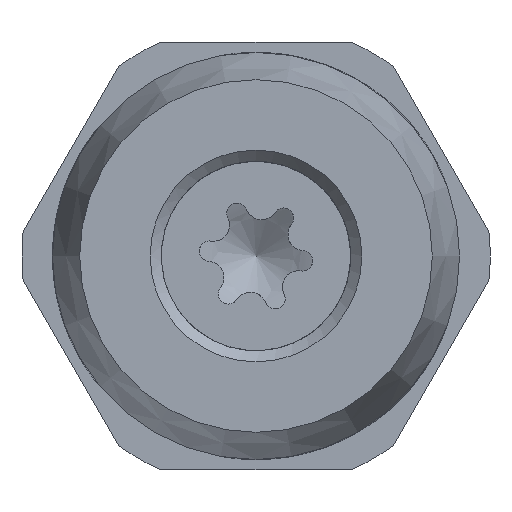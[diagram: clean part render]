
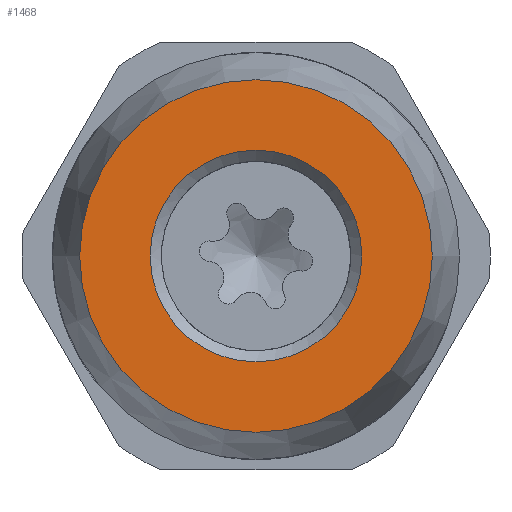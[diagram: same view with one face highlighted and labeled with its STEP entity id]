
A CAD part, front view. The second image highlights one B-rep face of the part: STEP entity #1468.
In plain terms, the highlighted planar face has unit normal (0, -1, 0).
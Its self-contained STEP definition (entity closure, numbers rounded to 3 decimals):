
#59=FACE_BOUND('',#256,.T.);
#79=PLANE('',#1604);
#174=FACE_OUTER_BOUND('',#255,.T.);
#255=EDGE_LOOP('',(#1124,#1125));
#256=EDGE_LOOP('',(#1126,#1127));
#507=CIRCLE('',#1578,5.2);
#508=CIRCLE('',#1579,5.2);
#514=CIRCLE('',#1605,8.66);
#515=CIRCLE('',#1606,8.66);
#608=VERTEX_POINT('',#2442);
#609=VERTEX_POINT('',#2443);
#641=VERTEX_POINT('',#2766);
#642=VERTEX_POINT('',#2767);
#774=EDGE_CURVE('',#608,#609,#507,.T.);
#775=EDGE_CURVE('',#609,#608,#508,.T.);
#823=EDGE_CURVE('',#641,#642,#514,.T.);
#824=EDGE_CURVE('',#642,#641,#515,.T.);
#1124=ORIENTED_EDGE('',*,*,#823,.F.);
#1125=ORIENTED_EDGE('',*,*,#824,.F.);
#1126=ORIENTED_EDGE('',*,*,#774,.T.);
#1127=ORIENTED_EDGE('',*,*,#775,.T.);
#1468=ADVANCED_FACE('',(#174,#59),#79,.T.);
#1578=AXIS2_PLACEMENT_3D('',#2444,#1811,#1812);
#1579=AXIS2_PLACEMENT_3D('',#2445,#1813,#1814);
#1604=AXIS2_PLACEMENT_3D('',#2765,#1891,#1892);
#1605=AXIS2_PLACEMENT_3D('',#2768,#1893,#1894);
#1606=AXIS2_PLACEMENT_3D('',#2769,#1895,#1896);
#1811=DIRECTION('center_axis',(0.,1.,0.));
#1812=DIRECTION('ref_axis',(0.5,0.,-0.866));
#1813=DIRECTION('center_axis',(0.,1.,0.));
#1814=DIRECTION('ref_axis',(0.5,0.,-0.866));
#1891=DIRECTION('center_axis',(0.,-1.,0.));
#1892=DIRECTION('ref_axis',(-0.866,0.,-0.5));
#1893=DIRECTION('center_axis',(0.,1.,0.));
#1894=DIRECTION('ref_axis',(-0.5,0.,0.866));
#1895=DIRECTION('center_axis',(0.,1.,0.));
#1896=DIRECTION('ref_axis',(-0.5,0.,0.866));
#2442=CARTESIAN_POINT('',(2.6,-3.8,-4.503));
#2443=CARTESIAN_POINT('',(-2.6,-3.8,4.503));
#2444=CARTESIAN_POINT('Origin',(0.,-3.8,0.));
#2445=CARTESIAN_POINT('Origin',(0.,-3.8,0.));
#2765=CARTESIAN_POINT('Origin',(-2.165,-3.8,3.75));
#2766=CARTESIAN_POINT('',(-4.33,-3.8,7.5));
#2767=CARTESIAN_POINT('',(4.33,-3.8,-7.5));
#2768=CARTESIAN_POINT('Origin',(0.,-3.8,0.));
#2769=CARTESIAN_POINT('Origin',(0.,-3.8,0.));
